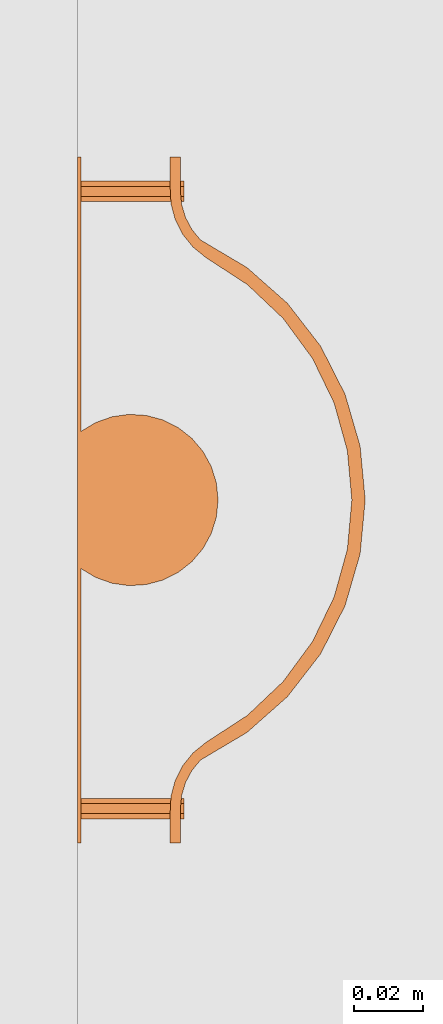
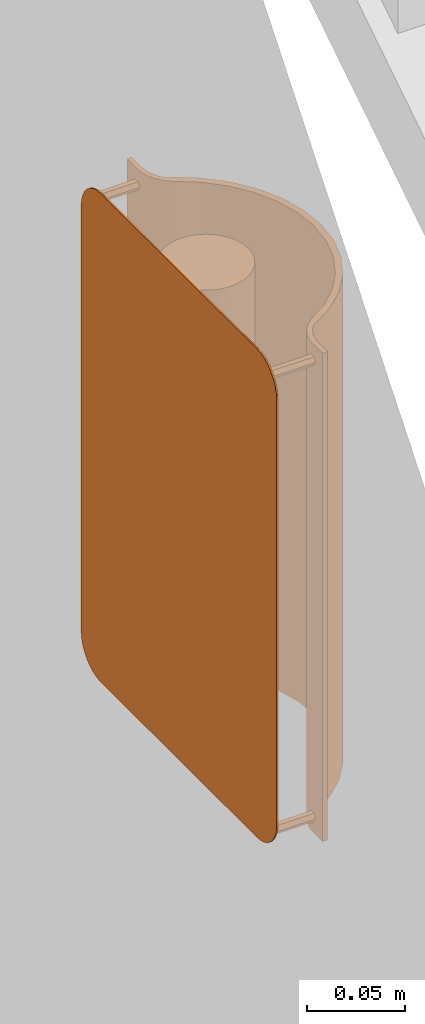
# One storey, part 71 of 103: 1 proxy.
"""IFC2X3 building model written with IfcOpenShell, lengths in inches."""

import ifcopenshell
import ifcopenshell.guid

model = None  # the IFC model being written
_history = None  # IfcOwnerHistory: only IFC2X3 demands one
_inside = {}  # id of a spatial element -> (the spatial element, [elements in it])
_under = {}  # id of a project, library or spatial element -> (it, [spatial elements below it])
_declared = {}  # id of a project -> (the project, [libraries it declares])
_typed = {}  # id of a type object -> (the type object, [elements of that type])
_made_of = {}  # id of a material, layer set ... -> (it, [elements and type objects made of it])


def new_model(schema):
    """Start an empty IFC model of exactly this schema.

    Asked for "IFC4X3", IfcOpenShell would pick the latest addendum, in which some entities
    have other attributes; the version numbers below select the first issue.
    IFC2X3 requires an IfcOwnerHistory on every rooted entity: one is made here for all.
    """
    global model, _history
    if schema == "IFC4X3":
        model = ifcopenshell.file(schema_version=(4, 3, 0, 0))
    else:
        model = ifcopenshell.file(schema=schema)
    _inside.clear()
    _under.clear()
    _declared.clear()
    _typed.clear()
    _made_of.clear()
    _history = None
    if model.schema == "IFC2X3":
        org = make("IfcOrganization", Name="unknown")
        user = make(
            "IfcPersonAndOrganization",
            ThePerson=make("IfcPerson", FamilyName="unknown"),
            TheOrganization=org,
        )
        app = make(
            "IfcApplication",
            ApplicationDeveloper=org,
            Version="unknown",
            ApplicationFullName="unknown",
            ApplicationIdentifier="unknown",
        )
        _history = make(
            "IfcOwnerHistory",
            OwningUser=user,
            OwningApplication=app,
            ChangeAction="ADDED",
            CreationDate=0,
        )
    return model


def make(cls, **values):
    """One entity of the class cls with the attributes given. An attribute that is None is left unset."""
    return model.create_entity(
        cls, **{name: value for name, value in values.items() if value is not None}
    )


def entity(cls, *values):
    """Any entity or typed value of the class cls, its attributes in the order of the schema. None: left unset."""
    e = model.create_entity(cls)
    for i, value in enumerate(values):
        if value is not None:
            e[i] = value
    return e


def rooted(cls, **values):
    """An entity with a GlobalId (a new one), such as an element, a storey or a relation."""
    return make(cls, GlobalId=ifcopenshell.guid.new(), OwnerHistory=_history, **values)


def si_unit(unit_type, name, prefix=None):
    """IfcSIUnit, for example si_unit("LENGTHUNIT", "METRE", prefix="MILLI")."""
    return make("IfcSIUnit", UnitType=unit_type, Prefix=prefix, Name=name)


def converted_unit(unit_type, name, factor, base, dimensions=None, offset=None):
    """IfcConversionBasedUnit, such as the inch: factor (a typed value) times the base unit."""
    return make(
        "IfcConversionBasedUnit"
        if offset is None
        else "IfcConversionBasedUnitWithOffset",
        ConversionOffset=offset,
        Dimensions=None
        if dimensions is None
        else entity("IfcDimensionalExponents", *dimensions),
        UnitType=unit_type,
        Name=name,
        ConversionFactor=make(
            "IfcMeasureWithUnit", ValueComponent=factor, UnitComponent=base
        ),
    )


def derived_unit(unit_type, elements):
    """IfcDerivedUnit: a product of units, each with its exponent."""
    return make(
        "IfcDerivedUnit",
        Elements=[
            make("IfcDerivedUnitElement", Unit=unit, Exponent=power)
            for unit, power in elements
        ],
        UnitType=unit_type,
    )


def money_unit(currency):
    """IfcMonetaryUnit."""
    return make("IfcMonetaryUnit", Currency=currency)


def assignment(units):
    """IfcUnitAssignment: the units of a project."""
    return None if units is None else make("IfcUnitAssignment", Units=units)


def point(xyz):
    """IfcCartesianPoint."""
    return None if xyz is None else make("IfcCartesianPoint", Coordinates=xyz)


def direction(xyz):
    """IfcDirection."""
    return None if xyz is None else make("IfcDirection", DirectionRatios=xyz)


def frame(location, z_axis=None, x_axis=None):
    """IfcAxis2Placement3D, a coordinate frame: its origin and axes. An axis left out is left unset."""
    return make(
        "IfcAxis2Placement3D",
        Location=point(location),
        Axis=direction(z_axis),
        RefDirection=direction(x_axis),
    )


def origin_with_axes():
    """The frame at (0, 0, 0) with the z axis (0, 0, 1) and the x axis (1, 0, 0) written out."""
    return frame((0.0, 0.0, 0.0), z_axis=(0.0, 0.0, 1.0), x_axis=(1.0, 0.0, 0.0))


def place(relative_to, where):
    """IfcLocalPlacement: puts the frame where relative to a parent placement (None: the world)."""
    return make(
        "IfcLocalPlacement", PlacementRelTo=relative_to, RelativePlacement=where
    )


def context(
    kind, dimensions, precision=None, world=None, true_north=None, identifier=None
):
    """IfcGeometricRepresentationContext, for example the 3D "Model" context."""
    return make(
        "IfcGeometricRepresentationContext",
        ContextIdentifier=identifier,
        ContextType=kind,
        CoordinateSpaceDimension=dimensions,
        Precision=precision,
        WorldCoordinateSystem=world,
        TrueNorth=true_north,
    )


def subcontext(parent, identifier, kind, view, scale=None):
    """IfcGeometricRepresentationSubContext, for example "Body" below "Model"."""
    return make(
        "IfcGeometricRepresentationSubContext",
        ContextIdentifier=identifier,
        ContextType=kind,
        ParentContext=parent,
        TargetScale=scale,
        TargetView=view,
    )


def project(units=None, contexts=None):
    """IfcProject with its units and contexts."""
    return rooted(
        "IfcProject",
        Name="project",
        RepresentationContexts=contexts,
        UnitsInContext=assignment(units),
    )


def spatial(cls, under=None, at=None, **own):
    """A site, building, storey or space (cls), placed at a placement, below another one or the project."""
    s = rooted(cls, ObjectPlacement=at, **own)
    if under is not None:
        _under.setdefault(under.id(), (under, []))[1].append(s)
    return s


def faces_of(points, faces, orient=None, outer=None):
    """IfcFace entities. A face is a list of loops; a loop is a list of indices into points, from 0.

    orient and outer hold one flag for each loop. By default every Orientation is true, the
    first loop of a face is its IfcFaceOuterBound and the others are IfcFaceBound.
    """
    made = []
    for i, loops in enumerate(faces):
        bounds = []
        for j, loop in enumerate(loops):
            is_outer = j == 0 if outer is None else outer[i][j]
            bounds.append(
                make(
                    "IfcFaceOuterBound" if is_outer else "IfcFaceBound",
                    Bound=make("IfcPolyLoop", Polygon=[points[k] for k in loop]),
                    Orientation=True if orient is None else orient[i][j],
                )
            )
        made.append(make("IfcFace", Bounds=bounds))
    return made


def faceted_brep(points, faces, orient=None, outer=None, voids=None):
    """IfcFacetedBrep: a solid bounded by flat faces; with voids (closed shells), ...WithVoids."""
    shared = [point(p) for p in points]
    hull = make("IfcClosedShell", CfsFaces=faces_of(shared, faces, orient, outer))
    if voids is None:
        return make("IfcFacetedBrep", Outer=hull)
    return make(
        "IfcFacetedBrepWithVoids",
        Outer=hull,
        Voids=[
            make(cls, CfsFaces=faces_of(shared, fs, o, b)) for cls, fs, o, b in voids
        ],
    )


def shape(context_of_items, identifier, shape_type, items):
    """IfcShapeRepresentation: the items that make up one representation, for example the "Body"."""
    return make(
        "IfcShapeRepresentation",
        ContextOfItems=context_of_items,
        RepresentationIdentifier=identifier,
        RepresentationType=shape_type,
        Items=items,
    )


def source(mapping_origin, context_of_items, identifier, shape_type, items):
    """IfcRepresentationMap: a shape defined once, which mapped items show again and again."""
    return make(
        "IfcRepresentationMap",
        MappingOrigin=mapping_origin,
        MappedRepresentation=shape(context_of_items, identifier, shape_type, items),
    )


def transform(
    local_origin,
    x_axis=None,
    y_axis=None,
    z_axis=None,
    scale=None,
    scale2=None,
    scale3=None,
    uniform=True,
):
    """IfcCartesianTransformationOperator3D, or its non-uniform kind. x_axis, y_axis, z_axis: its Axis1, 2, 3."""
    if uniform:
        return make(
            "IfcCartesianTransformationOperator3D",
            Axis1=direction(x_axis),
            Axis2=direction(y_axis),
            LocalOrigin=point(local_origin),
            Scale=scale,
            Axis3=direction(z_axis),
        )
    return make(
        "IfcCartesianTransformationOperator3DnonUniform",
        Axis1=direction(x_axis),
        Axis2=direction(y_axis),
        LocalOrigin=point(local_origin),
        Scale=scale,
        Axis3=direction(z_axis),
        Scale2=scale2,
        Scale3=scale3,
    )


def mapped(mapping_source, mapping_target):
    """IfcMappedItem: shows the shape of a source again, moved by a transform."""
    return make(
        "IfcMappedItem", MappingSource=mapping_source, MappingTarget=mapping_target
    )


def made_of(thing, what):
    """Note that an element or type object is made of a material, layer set ...; save() writes the relation."""
    if what is not None:
        _made_of.setdefault(what.id(), (what, []))[1].append(thing)
    return thing


def type_object(cls, material=None, **own):
    """A type object (cls), such as IfcWallType, which elements share."""
    return made_of(rooted(cls, **own), material)


def element(
    cls,
    number,
    at=None,
    inside=None,
    cuts=None,
    type_object=None,
    material=None,
    context=None,
    identifier="Body",
    shape_type=None,
    held_by="IfcProductDefinitionShape",
    body=None,
    shapes=None,
    **own,
):
    """One element of the class cls, such as IfcWall. Its Tag is "e" and its number.

    at: its placement. inside: the storey or other place that contains it. cuts: it is an
    opening in that element (IfcRelVoidsElement). A single representation is given by context,
    identifier, shape_type and body (its items); several are given by shapes. held_by: the class
    of the entity that holds the representations. save() writes the other relations.
    """
    e = rooted(cls, Tag="e%d" % number, ObjectPlacement=at, **own)
    if body is not None:
        shapes = [shape(context, identifier, shape_type, body)]
    if shapes is not None:
        e.Representation = make(held_by, Representations=shapes)
    if inside is not None:
        _inside.setdefault(inside.id(), (inside, []))[1].append(e)
    if cuts is not None:
        rooted(
            "IfcRelVoidsElement", RelatingBuildingElement=cuts, RelatedOpeningElement=e
        )
    if type_object is not None:
        _typed.setdefault(type_object.id(), (type_object, []))[1].append(e)
    return made_of(e, material)


def aggregate(whole, parts):
    """IfcRelAggregates: a whole, such as a stair, and the parts it consists of."""
    return rooted("IfcRelAggregates", RelatingObject=whole, RelatedObjects=parts)


def save(model, path):
    """Write the relations noted so far, then the file.

    IfcRelAggregates (storeys below a building ...), IfcRelContainedInSpatialStructure (elements
    in a storey), IfcRelDefinesByType, IfcRelAssociatesMaterial and IfcRelDeclares: one each for
    every whole, place, type object, material and project.
    """
    for whole, parts in _under.values():
        aggregate(whole, parts)
    for where, things in _inside.values():
        rooted(
            "IfcRelContainedInSpatialStructure",
            RelatedElements=things,
            RelatingStructure=where,
        )
    for kind, things in _typed.values():
        rooted("IfcRelDefinesByType", RelatedObjects=things, RelatingType=kind)
    for what, things in _made_of.values():
        rooted("IfcRelAssociatesMaterial", RelatedObjects=things, RelatingMaterial=what)
    for by, libraries in _declared.values():
        rooted("IfcRelDeclares", RelatingContext=by, RelatedDefinitions=libraries)
    model.write(path)


model = new_model("IFC2X3")

# Units and contexts
model_context = context("Model", 3, precision=0.00039370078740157, world=origin_with_axes(), true_north=direction((0.0, 1.0)))
plan_context = context("Plan", 3, precision=0.00039370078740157, world=origin_with_axes(), true_north=direction((0.0, 1.0)))
body_context = subcontext(model_context, "Body", "Model", "MODEL_VIEW")
ifc_project = project(units=[converted_unit("LENGTHUNIT", "INCH", entity("IfcPositiveLengthMeasure", 0.0254), si_unit("LENGTHUNIT", "METRE"), dimensions=[1, 0, 0, 0, 0, 0, 0]), converted_unit("AREAUNIT", "SQUARE_FOOT", entity("IfcPositiveLengthMeasure", 0.09290304), si_unit("AREAUNIT", "SQUARE_METRE"), dimensions=[2, 0, 0, 0, 0, 0, 0]), si_unit("PLANEANGLEUNIT", "RADIAN"), si_unit("SOLIDANGLEUNIT", "STERADIAN"), money_unit("USD"), converted_unit("TIMEUNIT", "Year", entity("IfcTimeMeasure", 31557600.0), si_unit("TIMEUNIT", "SECOND"), dimensions=[0, 0, 1, 0, 0, 0, 0]), si_unit("MASSUNIT", "GRAM", prefix="KILO"), si_unit("THERMODYNAMICTEMPERATUREUNIT", "DEGREE_CELSIUS"), si_unit("LUMINOUSINTENSITYUNIT", "LUMEN"), si_unit("ENERGYUNIT", "JOULE", prefix="MEGA"), derived_unit("SPECIFICHEATCAPACITYUNIT", [(si_unit("ENERGYUNIT", "JOULE"), 1), (si_unit("MASSUNIT", "GRAM", prefix="KILO"), -1), (si_unit("THERMODYNAMICTEMPERATUREUNIT", "KELVIN"), -1)])], contexts=[model_context, plan_context])

# Site, building, storey
site_placement = place(None, origin_with_axes())
site = spatial("IfcSite", under=ifc_project, at=site_placement, Name="Site", CompositionType="ELEMENT")
building_placement = place(site_placement, origin_with_axes())
building = spatial("IfcBuilding", under=site, at=building_placement, Name="Building", CompositionType="ELEMENT")
storey_placement = place(building_placement, frame((0.0, 0.0, 127.9999999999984), z_axis=(0.0, 0.0, 1.0), x_axis=(1.0, 0.0, 0.0)))
storey = spatial("IfcBuildingStorey", under=building, at=storey_placement, Name="Second Floor", CompositionType="ELEMENT", Elevation=128.0)

# Proxy
building_element_proxy_type = type_object("IfcBuildingElementProxyType", Name="Wall Lamp", PredefinedType="NOTDEFINED")
shared_shape = source(origin_with_axes(), body_context, "Body", "Brep", [
    faceted_brep([(3.9370078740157, -1.062992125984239, 0.0), (3.591991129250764, -1.063143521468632, 0.0), (3.591991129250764, -1.063143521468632, 11.99999999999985), (3.9370078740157, -1.062992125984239, 11.99999999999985), (3.9370078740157, -1.18110236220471, 0.0), (3.54330708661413, -1.18110236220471, 0.0), (3.389692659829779, -1.196232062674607, 0.0), (3.241981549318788, -1.241039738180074, 0.0), (3.105850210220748, -1.31380345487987, 0.0), (2.986530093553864, -1.411726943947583, 0.0), (2.669665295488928, -1.945564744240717, 0.0), (2.258517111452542, -2.410691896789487, 0.0), (1.767605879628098, -2.790681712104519, 0.0), (1.214268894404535, -3.072114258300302, 0.0), (0.6180481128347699, -3.245050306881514, 0.0), (0.0, -3.30338235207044, 0.0), (0.0, -3.14960629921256, 0.0), (0.5658852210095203, -3.098353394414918, 0.0), (1.113353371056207, -2.946262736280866, 0.0), (1.624586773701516, -2.698284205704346, 0.0), (2.082947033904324, -2.362488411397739, 0.0), (2.47351654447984, -1.949804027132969, 0.0), (2.783583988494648, -1.473662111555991, 0.0), (2.903069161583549, -1.326520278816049, 0.0), (3.050535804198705, -1.207436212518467, 0.0), (3.219538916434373, -1.121614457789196, 0.0), (3.402692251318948, -1.072805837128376, 0.0), (3.402692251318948, -1.072805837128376, 11.99999999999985), (3.219538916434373, -1.121614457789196, 11.99999999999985), (3.050535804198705, -1.207436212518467, 11.99999999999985), (2.903069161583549, -1.326520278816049, 11.99999999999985), (2.783583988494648, -1.473662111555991, 11.99999999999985), (2.47351654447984, -1.949804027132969, 11.99999999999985), (2.082947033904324, -2.362488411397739, 11.99999999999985), (1.624586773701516, -2.698284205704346, 11.99999999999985), (1.113353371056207, -2.946262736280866, 11.99999999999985), (0.5658852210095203, -3.098353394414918, 11.99999999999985), (0.0, -3.14960629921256, 11.99999999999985), (0.0, -3.30338235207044, 11.99999999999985), (0.6180481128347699, -3.245050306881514, 11.99999999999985), (1.214268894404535, -3.072114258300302, 11.99999999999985), (1.767605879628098, -2.790681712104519, 11.99999999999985), (2.258517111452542, -2.410691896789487, 11.99999999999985), (2.669665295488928, -1.945564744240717, 11.99999999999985), (2.986530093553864, -1.411726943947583, 11.99999999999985), (3.105850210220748, -1.31380345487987, 11.99999999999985), (3.241981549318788, -1.241039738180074, 11.99999999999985), (3.389692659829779, -1.196232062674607, 11.99999999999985), (3.54330708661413, -1.18110236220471, 11.99999999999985), (3.9370078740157, -1.18110236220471, 11.99999999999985)], [[[0, 1, 2, 3]], [[0, 4, 5, 6, 7, 8, 9, 10, 11, 12, 13, 14, 15, 16, 17, 18, 19, 20, 21, 22, 23, 24, 25, 26, 1]], [[1, 26, 27, 2]], [[3, 2, 27, 28, 29, 30, 31, 32, 33, 34, 35, 36, 37, 38, 39, 40, 41, 42, 43, 44, 45, 46, 47, 48, 49]], [[4, 0, 3, 49]], [[5, 4, 49, 48]], [[6, 5, 48, 47]], [[7, 6, 47, 46]], [[8, 7, 46, 45]], [[9, 8, 45, 44]], [[10, 9, 44, 43]], [[11, 10, 43, 42]], [[12, 11, 42, 41]], [[13, 12, 41, 40]], [[14, 13, 40, 39]], [[15, 14, 39, 38]], [[16, 15, 38, 37]], [[17, 16, 37, 36]], [[18, 17, 36, 35]], [[19, 18, 35, 34]], [[20, 19, 34, 33]], [[21, 20, 33, 32]], [[22, 21, 32, 31]], [[23, 22, 31, 30]], [[24, 23, 30, 29]], [[25, 24, 29, 28]], [[26, 25, 28, 27]]]),
    faceted_brep([(-3.9370078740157, -1.062992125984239, 0.0), (-3.9370078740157, -1.062992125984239, 11.99999999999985), (-3.591991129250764, -1.063143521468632, 11.99999999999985), (-3.591991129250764, -1.063143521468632, 0.0), (-3.9370078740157, -1.18110236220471, 0.0), (-3.9370078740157, -1.18110236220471, 11.99999999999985), (-3.54330708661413, -1.18110236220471, 11.99999999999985), (-3.389692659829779, -1.196232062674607, 11.99999999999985), (-3.241981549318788, -1.241039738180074, 11.99999999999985), (-3.105850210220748, -1.31380345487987, 11.99999999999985), (-2.986530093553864, -1.411726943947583, 11.99999999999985), (-2.669665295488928, -1.945564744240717, 11.99999999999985), (-2.258517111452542, -2.410691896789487, 11.99999999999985), (-1.767605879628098, -2.790681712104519, 11.99999999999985), (-1.214268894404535, -3.072114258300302, 11.99999999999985), (-0.6180481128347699, -3.245050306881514, 11.99999999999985), (0.0, -3.30338235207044, 11.99999999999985), (0.0, -3.14960629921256, 11.99999999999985), (-0.5658852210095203, -3.098353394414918, 11.99999999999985), (-1.113353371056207, -2.946262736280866, 11.99999999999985), (-1.624586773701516, -2.698284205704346, 11.99999999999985), (-2.082947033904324, -2.362488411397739, 11.99999999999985), (-2.47351654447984, -1.949804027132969, 11.99999999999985), (-2.783583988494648, -1.473662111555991, 11.99999999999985), (-2.903069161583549, -1.326520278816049, 11.99999999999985), (-3.050535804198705, -1.207436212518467, 11.99999999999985), (-3.219538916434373, -1.121614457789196, 11.99999999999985), (-3.402692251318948, -1.072805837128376, 11.99999999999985), (-3.402692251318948, -1.072805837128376, 0.0), (-3.219538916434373, -1.121614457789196, 0.0), (-3.050535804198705, -1.207436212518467, 0.0), (-2.903069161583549, -1.326520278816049, 0.0), (-2.783583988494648, -1.473662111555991, 0.0), (-2.47351654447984, -1.949804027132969, 0.0), (-2.082947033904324, -2.362488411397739, 0.0), (-1.624586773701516, -2.698284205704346, 0.0), (-1.113353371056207, -2.946262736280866, 0.0), (-0.5658852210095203, -3.098353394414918, 0.0), (0.0, -3.14960629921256, 0.0), (0.0, -3.30338235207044, 0.0), (-0.6180481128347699, -3.245050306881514, 0.0), (-1.214268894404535, -3.072114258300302, 0.0), (-1.767605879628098, -2.790681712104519, 0.0), (-2.258517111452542, -2.410691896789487, 0.0), (-2.669665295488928, -1.945564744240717, 0.0), (-2.986530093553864, -1.411726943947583, 0.0), (-3.105850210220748, -1.31380345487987, 0.0), (-3.241981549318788, -1.241039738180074, 0.0), (-3.389692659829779, -1.196232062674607, 0.0), (-3.54330708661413, -1.18110236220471, 0.0)], [[[0, 1, 2, 3]], [[4, 5, 1, 0]], [[1, 5, 6, 7, 8, 9, 10, 11, 12, 13, 14, 15, 16, 17, 18, 19, 20, 21, 22, 23, 24, 25, 26, 27, 2]], [[3, 2, 27, 28]], [[0, 3, 28, 29, 30, 31, 32, 33, 34, 35, 36, 37, 38, 39, 40, 41, 42, 43, 44, 45, 46, 47, 48, 49, 4]], [[49, 6, 5, 4]], [[48, 7, 6, 49]], [[47, 8, 7, 48]], [[46, 9, 8, 47]], [[45, 10, 9, 46]], [[44, 11, 10, 45]], [[43, 12, 11, 44]], [[42, 13, 12, 43]], [[41, 14, 13, 42]], [[40, 15, 14, 41]], [[39, 16, 15, 40]], [[38, 17, 16, 39]], [[37, 18, 17, 38]], [[36, 19, 18, 37]], [[35, 20, 19, 36]], [[34, 21, 20, 35]], [[33, 22, 21, 34]], [[32, 23, 22, 33]], [[31, 24, 23, 32]], [[30, 25, 24, 31]], [[29, 26, 25, 30]], [[28, 27, 26, 29]]]),
    faceted_brep([(3.14960629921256, 0.0, 0.0), (3.14960629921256, -0.039370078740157, 0.0), (-3.14960629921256, -0.039370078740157, 0.0), (-3.14960629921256, 0.0, 0.0), (3.303220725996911, 0.0, 0.01512970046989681), (3.303220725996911, -0.039370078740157, 0.01512970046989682), (3.450931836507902, -0.039370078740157, 0.05993737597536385), (3.587063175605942, -0.03937007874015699, 0.1327010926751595), (3.706383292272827, -0.03937007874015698, 0.230624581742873), (3.80430678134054, -0.03937007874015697, 0.3499446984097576), (3.877070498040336, -0.03937007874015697, 0.4860760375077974), (3.921878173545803, -0.03937007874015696, 0.633787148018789), (3.9370078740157, -0.03937007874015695, 0.78740157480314), (3.9370078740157, -0.03937007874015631, 11.21259842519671), (3.921878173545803, -0.0393700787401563, 11.36621285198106), (3.877070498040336, -0.03937007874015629, 11.51392396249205), (3.80430678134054, -0.03937007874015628, 11.65005530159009), (3.706383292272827, -0.03937007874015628, 11.76937541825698), (3.587063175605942, -0.03937007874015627, 11.86729890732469), (3.450931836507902, -0.03937007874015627, 11.94006262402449), (3.30322072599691, -0.03937007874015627, 11.98487029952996), (3.14960629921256, -0.03937007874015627, 11.99999999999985), (-3.14960629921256, -0.03937007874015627, 11.99999999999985), (-3.30322072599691, -0.03937007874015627, 11.98487029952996), (-3.450931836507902, -0.03937007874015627, 11.94006262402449), (-3.587063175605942, -0.03937007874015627, 11.86729890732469), (-3.706383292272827, -0.03937007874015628, 11.76937541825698), (-3.80430678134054, -0.03937007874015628, 11.65005530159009), (-3.877070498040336, -0.03937007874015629, 11.51392396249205), (-3.921878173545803, -0.0393700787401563, 11.36621285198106), (-3.9370078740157, -0.03937007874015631, 11.21259842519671), (-3.9370078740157, -0.03937007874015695, 0.7874015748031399), (-3.921878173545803, -0.03937007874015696, 0.6337871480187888), (-3.877070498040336, -0.03937007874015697, 0.4860760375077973), (-3.80430678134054, -0.03937007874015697, 0.3499446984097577), (-3.706383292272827, -0.03937007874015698, 0.2306245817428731), (-3.587063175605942, -0.03937007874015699, 0.1327010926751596), (-3.450931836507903, -0.039370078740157, 0.05993737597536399), (-3.303220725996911, -0.039370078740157, 0.01512970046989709), (-3.303220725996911, 0.0, 0.01512970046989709), (-3.450931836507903, 0.0, 0.05993737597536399), (-3.587063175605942, 0.0, 0.1327010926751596), (-3.706383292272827, 0.0, 0.2306245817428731), (-3.80430678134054, 0.0, 0.3499446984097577), (-3.877070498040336, 0.0, 0.4860760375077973), (-3.921878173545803, 0.0, 0.6337871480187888), (-3.9370078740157, 0.0, 0.7874015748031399), (-3.9370078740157, 0.0, 11.21259842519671), (-3.921878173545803, 0.0, 11.36621285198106), (-3.877070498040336, 0.0, 11.51392396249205), (-3.80430678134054, 0.0, 11.65005530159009), (-3.706383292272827, 0.0, 11.76937541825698), (-3.587063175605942, 0.0, 11.86729890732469), (-3.450931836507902, 0.0, 11.94006262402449), (-3.30322072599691, 0.0, 11.98487029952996), (-3.14960629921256, 0.0, 11.99999999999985), (3.14960629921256, 0.0, 11.99999999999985), (3.30322072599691, 0.0, 11.98487029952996), (3.450931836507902, 0.0, 11.94006262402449), (3.587063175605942, 0.0, 11.86729890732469), (3.706383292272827, 0.0, 11.76937541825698), (3.80430678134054, 0.0, 11.65005530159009), (3.877070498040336, 0.0, 11.51392396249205), (3.921878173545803, 0.0, 11.36621285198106), (3.9370078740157, 0.0, 11.21259842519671), (3.9370078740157, 0.0, 0.78740157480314), (3.921878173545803, 0.0, 0.633787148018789), (3.877070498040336, 0.0, 0.4860760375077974), (3.80430678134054, 0.0, 0.3499446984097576), (3.706383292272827, 0.0, 0.230624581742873), (3.587063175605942, 0.0, 0.1327010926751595), (3.450931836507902, 0.0, 0.05993737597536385)], [[[0, 1, 2, 3]], [[4, 5, 1, 0]], [[1, 5, 6, 7, 8, 9, 10, 11, 12, 13, 14, 15, 16, 17, 18, 19, 20, 21, 22, 23, 24, 25, 26, 27, 28, 29, 30, 31, 32, 33, 34, 35, 36, 37, 38, 2]], [[3, 2, 38, 39]], [[0, 3, 39, 40, 41, 42, 43, 44, 45, 46, 47, 48, 49, 50, 51, 52, 53, 54, 55, 56, 57, 58, 59, 60, 61, 62, 63, 64, 65, 66, 67, 68, 69, 70, 71, 4]], [[71, 6, 5, 4]], [[70, 7, 6, 71]], [[69, 8, 7, 70]], [[68, 9, 8, 69]], [[67, 10, 9, 68]], [[66, 11, 10, 67]], [[65, 12, 11, 66]], [[64, 13, 12, 65]], [[63, 14, 13, 64]], [[62, 15, 14, 63]], [[61, 16, 15, 62]], [[60, 17, 16, 61]], [[59, 18, 17, 60]], [[58, 19, 18, 59]], [[57, 20, 19, 58]], [[56, 21, 20, 57]], [[55, 22, 21, 56]], [[54, 23, 22, 55]], [[53, 24, 23, 54]], [[52, 25, 24, 53]], [[51, 26, 25, 52]], [[50, 27, 26, 51]], [[49, 28, 27, 50]], [[48, 29, 28, 49]], [[47, 30, 29, 48]], [[46, 31, 30, 47]], [[45, 32, 31, 46]], [[44, 33, 32, 45]], [[43, 34, 33, 44]], [[42, 35, 34, 43]], [[41, 36, 35, 42]], [[40, 37, 36, 41]], [[39, 38, 37, 40]]]),
    faceted_brep([(3.661417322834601, -0.03937007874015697, 0.39370078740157), (3.602362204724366, -0.03937007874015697, 0.4959872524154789), (3.602362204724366, -1.220472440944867, 0.495987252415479), (3.661417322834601, -1.220472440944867, 0.3937007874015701), (3.602362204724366, -0.03937007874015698, 0.291414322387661), (3.484251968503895, -0.03937007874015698, 0.2914143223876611), (3.425196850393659, -0.03937007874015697, 0.3937007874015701), (3.484251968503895, -0.03937007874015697, 0.495987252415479), (3.484251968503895, -1.220472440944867, 0.495987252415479), (3.425196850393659, -1.220472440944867, 0.3937007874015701), (3.484251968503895, -1.220472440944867, 0.2914143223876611), (3.602362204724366, -1.220472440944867, 0.2914143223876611)], [[[0, 1, 2, 3]], [[0, 4, 5, 6, 7, 1]], [[1, 7, 8, 2]], [[3, 2, 8, 9, 10, 11]], [[4, 0, 3, 11]], [[5, 4, 11, 10]], [[6, 5, 10, 9]], [[7, 6, 9, 8]]]),
    faceted_brep([(-3.425196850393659, -0.03937007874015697, 0.39370078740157), (-3.484251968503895, -0.03937007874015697, 0.4959872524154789), (-3.484251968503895, -1.220472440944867, 0.495987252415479), (-3.425196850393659, -1.220472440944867, 0.3937007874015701), (-3.484251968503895, -0.03937007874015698, 0.291414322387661), (-3.602362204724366, -0.03937007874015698, 0.2914143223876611), (-3.661417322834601, -0.03937007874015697, 0.3937007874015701), (-3.602362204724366, -0.03937007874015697, 0.495987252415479), (-3.602362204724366, -1.220472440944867, 0.495987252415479), (-3.661417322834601, -1.220472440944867, 0.3937007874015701), (-3.602362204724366, -1.220472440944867, 0.2914143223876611), (-3.484251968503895, -1.220472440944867, 0.2914143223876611)], [[[0, 1, 2, 3]], [[0, 4, 5, 6, 7, 1]], [[1, 7, 8, 2]], [[3, 2, 8, 9, 10, 11]], [[4, 0, 3, 11]], [[5, 4, 11, 10]], [[6, 5, 10, 9]], [[7, 6, 9, 8]]]),
    faceted_brep([(3.661417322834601, -0.03937007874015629, 11.60629921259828), (3.602362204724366, -0.03937007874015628, 11.70858567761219), (3.602362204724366, -1.220472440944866, 11.70858567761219), (3.661417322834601, -1.220472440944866, 11.60629921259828), (3.602362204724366, -0.03937007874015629, 11.50401274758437), (3.484251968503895, -0.03937007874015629, 11.50401274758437), (3.425196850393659, -0.03937007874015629, 11.60629921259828), (3.484251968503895, -0.03937007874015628, 11.70858567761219), (3.484251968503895, -1.220472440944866, 11.70858567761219), (3.425196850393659, -1.220472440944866, 11.60629921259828), (3.484251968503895, -1.220472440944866, 11.50401274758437), (3.602362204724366, -1.220472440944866, 11.50401274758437)], [[[0, 1, 2, 3]], [[0, 4, 5, 6, 7, 1]], [[1, 7, 8, 2]], [[3, 2, 8, 9, 10, 11]], [[4, 0, 3, 11]], [[5, 4, 11, 10]], [[6, 5, 10, 9]], [[7, 6, 9, 8]]]),
    faceted_brep([(-3.425196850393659, -0.03937007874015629, 11.60629921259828), (-3.484251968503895, -0.03937007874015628, 11.70858567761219), (-3.484251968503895, -1.220472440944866, 11.70858567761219), (-3.425196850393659, -1.220472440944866, 11.60629921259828), (-3.484251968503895, -0.03937007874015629, 11.50401274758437), (-3.602362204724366, -0.03937007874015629, 11.50401274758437), (-3.661417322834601, -0.03937007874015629, 11.60629921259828), (-3.602362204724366, -0.03937007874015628, 11.70858567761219), (-3.602362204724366, -1.220472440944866, 11.70858567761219), (-3.661417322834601, -1.220472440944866, 11.60629921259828), (-3.602362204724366, -1.220472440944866, 11.50401274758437), (-3.484251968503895, -1.220472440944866, 11.50401274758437)], [[[0, 1, 2, 3]], [[0, 4, 5, 6, 7, 1]], [[1, 7, 8, 2]], [[3, 2, 8, 9, 10, 11]], [[4, 0, 3, 11]], [[5, 4, 11, 10]], [[6, 5, 10, 9]], [[7, 6, 9, 8]]]),
    faceted_brep([(-0.7874015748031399, -0.039370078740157, 0.0), (-0.8895785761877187, -0.2087302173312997, 0.0), (-0.8895785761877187, -0.2087302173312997, 0.984251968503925), (-0.7874015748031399, -0.039370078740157, 0.984251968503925), (0.78740157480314, -0.039370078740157, 0.0), (0.889578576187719, -0.2087302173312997, 0.0), (0.9558299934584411, -0.3951001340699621, 0.0), (0.9834802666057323, -0.5909532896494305, 0.0), (0.971412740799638, -0.7883801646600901, 0.0), (0.9201147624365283, -0.9794076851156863, 0.0), (0.8316579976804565, -1.15632121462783, 0.0), (0.7096147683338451, -1.311976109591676, 0.0), (0.5589137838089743, -1.440086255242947, 0.0), (0.3856410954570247, -1.535477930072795, 0.0), (0.1967943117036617, -1.594298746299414, 0.0), (0.0, -1.614173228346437, 0.0), (-0.1967943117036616, -1.594298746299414, 0.0), (-0.3856410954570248, -1.535477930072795, 0.0), (-0.5589137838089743, -1.440086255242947, 0.0), (-0.7096147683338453, -1.311976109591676, 0.0), (-0.8316579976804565, -1.15632121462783, 0.0), (-0.9201147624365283, -0.979407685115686, 0.0), (-0.971412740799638, -0.7883801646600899, 0.0), (-0.9834802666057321, -0.5909532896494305, 0.0), (-0.9558299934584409, -0.3951001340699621, 0.0), (-0.9558299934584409, -0.3951001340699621, 0.984251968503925), (-0.9834802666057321, -0.5909532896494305, 0.984251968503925), (-0.971412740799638, -0.7883801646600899, 0.984251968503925), (-0.9201147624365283, -0.979407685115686, 0.984251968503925), (-0.8316579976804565, -1.15632121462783, 0.984251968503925), (-0.7096147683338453, -1.311976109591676, 0.984251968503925), (-0.5589137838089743, -1.440086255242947, 0.984251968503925), (-0.3856410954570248, -1.535477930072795, 0.984251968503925), (-0.1967943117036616, -1.594298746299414, 0.984251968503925), (0.0, -1.614173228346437, 0.984251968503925), (0.1967943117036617, -1.594298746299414, 0.984251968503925), (0.3856410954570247, -1.535477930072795, 0.984251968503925), (0.5589137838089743, -1.440086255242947, 0.984251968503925), (0.7096147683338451, -1.311976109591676, 0.984251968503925), (0.8316579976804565, -1.15632121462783, 0.984251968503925), (0.9201147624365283, -0.9794076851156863, 0.984251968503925), (0.971412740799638, -0.7883801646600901, 0.984251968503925), (0.9834802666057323, -0.5909532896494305, 0.984251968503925), (0.9558299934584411, -0.3951001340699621, 0.984251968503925), (0.889578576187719, -0.2087302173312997, 0.984251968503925), (0.78740157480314, -0.039370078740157, 0.984251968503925)], [[[0, 1, 2, 3]], [[0, 4, 5, 6, 7, 8, 9, 10, 11, 12, 13, 14, 15, 16, 17, 18, 19, 20, 21, 22, 23, 24, 1]], [[1, 24, 25, 2]], [[3, 2, 25, 26, 27, 28, 29, 30, 31, 32, 33, 34, 35, 36, 37, 38, 39, 40, 41, 42, 43, 44, 45]], [[4, 0, 3, 45]], [[5, 4, 45, 44]], [[6, 5, 44, 43]], [[7, 6, 43, 42]], [[8, 7, 42, 41]], [[9, 8, 41, 40]], [[10, 9, 40, 39]], [[11, 10, 39, 38]], [[12, 11, 38, 37]], [[13, 12, 37, 36]], [[14, 13, 36, 35]], [[15, 14, 35, 34]], [[16, 15, 34, 33]], [[17, 16, 33, 32]], [[18, 17, 32, 31]], [[19, 18, 31, 30]], [[20, 19, 30, 29]], [[21, 20, 29, 28]], [[22, 21, 28, 27]], [[23, 22, 27, 26]], [[24, 23, 26, 25]]]),
    faceted_brep([(-0.7874015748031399, -0.039370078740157, 11.01574803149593), (-0.8895785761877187, -0.2087302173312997, 11.01574803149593), (-0.8895785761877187, -0.2087302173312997, 11.99999999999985), (-0.7874015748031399, -0.039370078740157, 11.99999999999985), (0.78740157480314, -0.039370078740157, 11.01574803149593), (0.889578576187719, -0.2087302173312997, 11.01574803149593), (0.9558299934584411, -0.3951001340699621, 11.01574803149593), (0.9834802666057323, -0.5909532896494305, 11.01574803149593), (0.971412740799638, -0.7883801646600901, 11.01574803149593), (0.9201147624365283, -0.9794076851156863, 11.01574803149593), (0.8316579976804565, -1.15632121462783, 11.01574803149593), (0.7096147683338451, -1.311976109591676, 11.01574803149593), (0.5589137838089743, -1.440086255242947, 11.01574803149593), (0.3856410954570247, -1.535477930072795, 11.01574803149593), (0.1967943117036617, -1.594298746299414, 11.01574803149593), (0.0, -1.614173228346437, 11.01574803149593), (-0.1967943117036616, -1.594298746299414, 11.01574803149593), (-0.3856410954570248, -1.535477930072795, 11.01574803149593), (-0.5589137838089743, -1.440086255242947, 11.01574803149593), (-0.7096147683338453, -1.311976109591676, 11.01574803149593), (-0.8316579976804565, -1.15632121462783, 11.01574803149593), (-0.9201147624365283, -0.979407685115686, 11.01574803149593), (-0.971412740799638, -0.7883801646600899, 11.01574803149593), (-0.9834802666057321, -0.5909532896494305, 11.01574803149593), (-0.9558299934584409, -0.3951001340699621, 11.01574803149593), (-0.9558299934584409, -0.3951001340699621, 11.99999999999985), (-0.9834802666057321, -0.5909532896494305, 11.99999999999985), (-0.971412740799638, -0.7883801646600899, 11.99999999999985), (-0.9201147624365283, -0.979407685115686, 11.99999999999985), (-0.8316579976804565, -1.15632121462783, 11.99999999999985), (-0.7096147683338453, -1.311976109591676, 11.99999999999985), (-0.5589137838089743, -1.440086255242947, 11.99999999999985), (-0.3856410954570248, -1.535477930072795, 11.99999999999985), (-0.1967943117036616, -1.594298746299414, 11.99999999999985), (0.0, -1.614173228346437, 11.99999999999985), (0.1967943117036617, -1.594298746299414, 11.99999999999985), (0.3856410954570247, -1.535477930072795, 11.99999999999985), (0.5589137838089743, -1.440086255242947, 11.99999999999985), (0.7096147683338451, -1.311976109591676, 11.99999999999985), (0.8316579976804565, -1.15632121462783, 11.99999999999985), (0.9201147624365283, -0.9794076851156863, 11.99999999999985), (0.971412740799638, -0.7883801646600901, 11.99999999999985), (0.9834802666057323, -0.5909532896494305, 11.99999999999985), (0.9558299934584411, -0.3951001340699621, 11.99999999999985), (0.889578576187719, -0.2087302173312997, 11.99999999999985), (0.78740157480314, -0.039370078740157, 11.99999999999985)], [[[0, 1, 2, 3]], [[0, 4, 5, 6, 7, 8, 9, 10, 11, 12, 13, 14, 15, 16, 17, 18, 19, 20, 21, 22, 23, 24, 1]], [[1, 24, 25, 2]], [[3, 2, 25, 26, 27, 28, 29, 30, 31, 32, 33, 34, 35, 36, 37, 38, 39, 40, 41, 42, 43, 44, 45]], [[4, 0, 3, 45]], [[5, 4, 45, 44]], [[6, 5, 44, 43]], [[7, 6, 43, 42]], [[8, 7, 42, 41]], [[9, 8, 41, 40]], [[10, 9, 40, 39]], [[11, 10, 39, 38]], [[12, 11, 38, 37]], [[13, 12, 37, 36]], [[14, 13, 36, 35]], [[15, 14, 35, 34]], [[16, 15, 34, 33]], [[17, 16, 33, 32]], [[18, 17, 32, 31]], [[19, 18, 31, 30]], [[20, 19, 30, 29]], [[21, 20, 29, 28]], [[22, 21, 28, 27]], [[23, 22, 27, 26]], [[24, 23, 26, 25]]]),
    faceted_brep([(-0.7874015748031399, -0.039370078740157, 0.984251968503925), (-0.8895785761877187, -0.2087302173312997, 0.984251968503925), (-0.8895785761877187, -0.2087302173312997, 11.01574803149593), (-0.7874015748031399, -0.039370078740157, 11.01574803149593), (0.78740157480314, -0.039370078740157, 0.984251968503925), (0.889578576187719, -0.2087302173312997, 0.984251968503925), (0.9558299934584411, -0.3951001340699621, 0.984251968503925), (0.9834802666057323, -0.5909532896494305, 0.984251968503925), (0.971412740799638, -0.7883801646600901, 0.984251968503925), (0.9201147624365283, -0.9794076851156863, 0.984251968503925), (0.8316579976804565, -1.15632121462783, 0.984251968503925), (0.7096147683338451, -1.311976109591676, 0.984251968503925), (0.5589137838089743, -1.440086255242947, 0.984251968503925), (0.3856410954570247, -1.535477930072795, 0.984251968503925), (0.1967943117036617, -1.594298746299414, 0.984251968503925), (0.0, -1.614173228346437, 0.984251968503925), (-0.1967943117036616, -1.594298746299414, 0.984251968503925), (-0.3856410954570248, -1.535477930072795, 0.984251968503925), (-0.5589137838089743, -1.440086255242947, 0.984251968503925), (-0.7096147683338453, -1.311976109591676, 0.984251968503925), (-0.8316579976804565, -1.15632121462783, 0.984251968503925), (-0.9201147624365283, -0.979407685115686, 0.984251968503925), (-0.971412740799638, -0.7883801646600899, 0.984251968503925), (-0.9834802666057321, -0.5909532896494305, 0.984251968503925), (-0.9558299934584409, -0.3951001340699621, 0.984251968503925), (-0.9558299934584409, -0.3951001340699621, 11.01574803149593), (-0.9834802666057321, -0.5909532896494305, 11.01574803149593), (-0.971412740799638, -0.7883801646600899, 11.01574803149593), (-0.9201147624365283, -0.979407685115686, 11.01574803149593), (-0.8316579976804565, -1.15632121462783, 11.01574803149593), (-0.7096147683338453, -1.311976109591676, 11.01574803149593), (-0.5589137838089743, -1.440086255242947, 11.01574803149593), (-0.3856410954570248, -1.535477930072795, 11.01574803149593), (-0.1967943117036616, -1.594298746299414, 11.01574803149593), (0.0, -1.614173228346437, 11.01574803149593), (0.1967943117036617, -1.594298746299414, 11.01574803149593), (0.3856410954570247, -1.535477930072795, 11.01574803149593), (0.5589137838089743, -1.440086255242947, 11.01574803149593), (0.7096147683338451, -1.311976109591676, 11.01574803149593), (0.8316579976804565, -1.15632121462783, 11.01574803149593), (0.9201147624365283, -0.9794076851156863, 11.01574803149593), (0.971412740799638, -0.7883801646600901, 11.01574803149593), (0.9834802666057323, -0.5909532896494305, 11.01574803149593), (0.9558299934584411, -0.3951001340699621, 11.01574803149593), (0.889578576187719, -0.2087302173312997, 11.01574803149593), (0.78740157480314, -0.039370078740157, 11.01574803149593)], [[[0, 1, 2, 3]], [[0, 4, 5, 6, 7, 8, 9, 10, 11, 12, 13, 14, 15, 16, 17, 18, 19, 20, 21, 22, 23, 24, 1]], [[1, 24, 25, 2]], [[3, 2, 25, 26, 27, 28, 29, 30, 31, 32, 33, 34, 35, 36, 37, 38, 39, 40, 41, 42, 43, 44, 45]], [[4, 0, 3, 45]], [[5, 4, 45, 44]], [[6, 5, 44, 43]], [[7, 6, 43, 42]], [[8, 7, 42, 41]], [[9, 8, 41, 40]], [[10, 9, 40, 39]], [[11, 10, 39, 38]], [[12, 11, 38, 37]], [[13, 12, 37, 36]], [[14, 13, 36, 35]], [[15, 14, 35, 34]], [[16, 15, 34, 33]], [[17, 16, 33, 32]], [[18, 17, 32, 31]], [[19, 18, 31, 30]], [[20, 19, 30, 29]], [[21, 20, 29, 28]], [[22, 21, 28, 27]], [[23, 22, 27, 26]], [[24, 23, 26, 25]]]),
])
proxy_placement = place(storey_placement, frame((161.4999893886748, 37.07838519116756, 17.99999999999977), z_axis=(0.0, 0.0, 1.0), x_axis=(0.0, 1.0, 0.0)))
element("IfcBuildingElementProxy", 1, at=proxy_placement, inside=storey, type_object=building_element_proxy_type, Name="L-17", context=body_context, shape_type="MappedRepresentation", body=[
    mapped(shared_shape, transform((0.0, 0.0, 0.0))),
])

save(model, "model.ifc")
